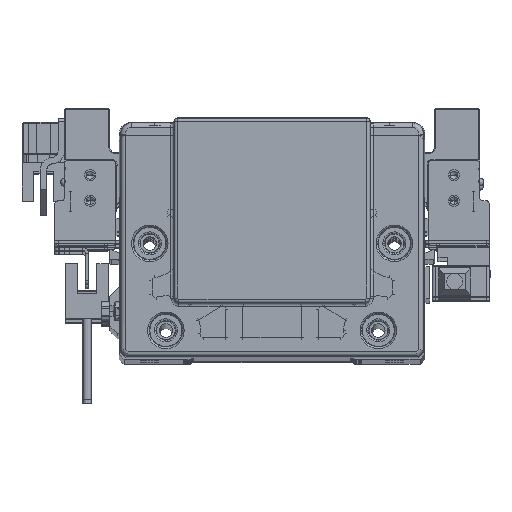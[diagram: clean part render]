
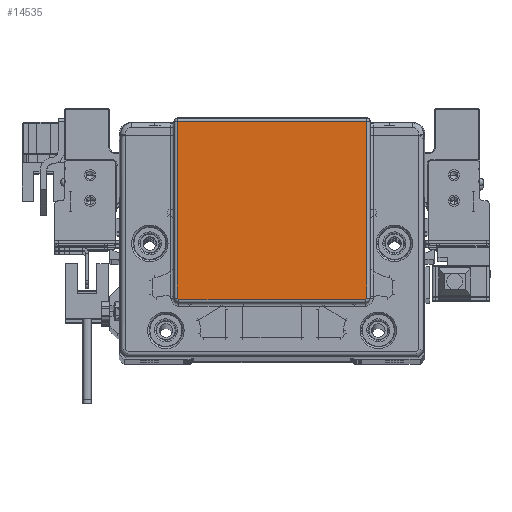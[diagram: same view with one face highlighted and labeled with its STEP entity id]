
A CAD part, top view. The second image highlights one B-rep face of the part: STEP entity #14535.
In plain terms, the highlighted planar face has unit normal (0, 0, 1) as drawn and (0, 0, -1) by its records, which use the part's own axes.
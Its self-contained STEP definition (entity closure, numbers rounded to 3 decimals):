
#407 = LINE ( 'NONE', #18826, #25203 ) ;
#5901 = CARTESIAN_POINT ( 'NONE',  ( -29.299, -19.076, -2. ) ) ;
#6328 = CARTESIAN_POINT ( 'NONE',  ( -29.435, -18.801, -2. ) ) ;
#8854 = CARTESIAN_POINT ( 'NONE',  ( 29.427, -18.849, -2. ) ) ;
#9275 = CARTESIAN_POINT ( 'NONE',  ( 29.386, -18.948, -2. ) ) ;
#9578 = B_SPLINE_CURVE_WITH_KNOTS ( 'NONE', 3,
 ( #64722, #45569, #71577, #13160, #42142, #22509, #66850, #9702, #41727, #42561, #55724, #34888, #60857, #61684, #67698, #73277, #22102, #9275, #68524, #16522, #29742, #28078, #8854, #21679, #47668 ),
 .UNSPECIFIED., .F., .F.,
 ( 4, 2, 1, 1, 1, 1, 2, 2, 2, 2, 2, 1, 2, 2, 4 ),
 ( 0., 0.25, 0.375, 0.438, 0.469, 0.484, 0.492, 0.5, 0.625, 0.688, 0.719, 0.734, 0.742, 0.75, 1. ),
 .UNSPECIFIED. ) ;
#9702 = CARTESIAN_POINT ( 'NONE',  ( 29.279, -19.096, -2. ) ) ;
#10146 = ORIENTED_EDGE ( 'NONE', *, *, #38197, .T. ) ;
#10600 = DIRECTION ( 'NONE',  ( 0., 0., -1. ) ) ;
#11349 = ORIENTED_EDGE ( 'NONE', *, *, #43101, .T. ) ;
#12322 = CARTESIAN_POINT ( 'NONE',  ( -29.294, -19.08, -2. ) ) ;
#12734 = CARTESIAN_POINT ( 'NONE',  ( -28.935, -19.232, -2. ) ) ;
#13160 = CARTESIAN_POINT ( 'NONE',  ( 29.158, -19.18, -2. ) ) ;
#14535 = ADVANCED_FACE ( 'NONE', ( #17853 ), #55370, .T. ) ;
#15418 = DIRECTION ( 'NONE',  ( 1., 0., 0. ) ) ;
#16338 = CARTESIAN_POINT ( 'NONE',  ( -29.435, -18.732, -2. ) ) ;
#16522 = CARTESIAN_POINT ( 'NONE',  ( 29.395, -18.93, -2. ) ) ;
#16621 = VECTOR ( 'NONE', #15418, 1000. ) ;
#17853 = FACE_OUTER_BOUND ( 'NONE', #39796, .T. ) ;
#18389 = DIRECTION ( 'NONE',  ( -1., 0., 0. ) ) ;
#18599 = CARTESIAN_POINT ( 'NONE',  ( -28.935, -19.232, -2. ) ) ;
#18826 = CARTESIAN_POINT ( 'NONE',  ( 0., -19.232, -2. ) ) ;
#21679 = CARTESIAN_POINT ( 'NONE',  ( 29.435, -18.785, -2. ) ) ;
#21827 = CARTESIAN_POINT ( 'NONE',  ( 0., 36.185, -2. ) ) ;
#22102 = CARTESIAN_POINT ( 'NONE',  ( 29.378, -18.966, -2. ) ) ;
#22509 = CARTESIAN_POINT ( 'NONE',  ( 29.247, -19.124, -2. ) ) ;
#24723 = CARTESIAN_POINT ( 'NONE',  ( -29.282, -19.093, -2. ) ) ;
#25203 = VECTOR ( 'NONE', #18389, 1000. ) ;
#25557 = CARTESIAN_POINT ( 'NONE',  ( -28.988, -19.232, -2. ) ) ;
#26389 = CARTESIAN_POINT ( 'NONE',  ( -29.435, 0., -2. ) ) ;
#26397 = CARTESIAN_POINT ( 'NONE',  ( -29.308, -19.065, -2. ) ) ;
#27370 = VERTEX_POINT ( 'NONE', #61772 ) ;
#28078 = CARTESIAN_POINT ( 'NONE',  ( 29.399, -18.919, -2. ) ) ;
#29742 = CARTESIAN_POINT ( 'NONE',  ( 29.397, -18.923, -2. ) ) ;
#30112 = EDGE_CURVE ( 'NONE', #64690, #80318, #44581, .T. ) ;
#31926 = CARTESIAN_POINT ( 'NONE',  ( -29.051, -19.224, -2. ) ) ;
#32362 = CARTESIAN_POINT ( 'NONE',  ( -29.18, -19.169, -2. ) ) ;
#33568 = EDGE_CURVE ( 'NONE', #27370, #60436, #9578, .T. ) ;
#34461 = VERTEX_POINT ( 'NONE', #67819 ) ;
#34888 = CARTESIAN_POINT ( 'NONE',  ( 29.296, -19.079, -2. ) ) ;
#38197 = EDGE_CURVE ( 'NONE', #64690, #70458, #71576, .T. ) ;
#38249 = VECTOR ( 'NONE', #41482, 1000. ) ;
#38359 = CARTESIAN_POINT ( 'NONE',  ( -29.151, -19.183, -2. ) ) ;
#39197 = CARTESIAN_POINT ( 'NONE',  ( -29.289, -19.086, -2. ) ) ;
#39616 = CARTESIAN_POINT ( 'NONE',  ( -29.126, -19.195, -2. ) ) ;
#39796 = EDGE_LOOP ( 'NONE', ( #10146, #11349, #55020, #64610, #71741, #41534 ) ) ;
#41482 = DIRECTION ( 'NONE',  ( 0., -1., 0. ) ) ;
#41534 = ORIENTED_EDGE ( 'NONE', *, *, #30112, .F. ) ;
#41727 = CARTESIAN_POINT ( 'NONE',  ( 29.283, -19.092, -2. ) ) ;
#41947 = EDGE_CURVE ( 'NONE', #34461, #60436, #73032, .T. ) ;
#42142 = CARTESIAN_POINT ( 'NONE',  ( 29.201, -19.157, -2. ) ) ;
#42561 = CARTESIAN_POINT ( 'NONE',  ( 29.286, -19.089, -2. ) ) ;
#43101 = EDGE_CURVE ( 'NONE', #70458, #34461, #80230, .T. ) ;
#43291 = VECTOR ( 'NONE', #65564, 1000. ) ;
#44581 = B_SPLINE_CURVE_WITH_KNOTS ( 'NONE', 3,
 ( #44760, #6328, #58746, #70743, #71584, #63905, #26397, #5901, #12322, #64729, #39197, #24723, #57917, #52377, #76731, #32362, #83965, #38359, #64315, #78398, #39616, #65571, #31926, #25557, #12734 ),
 .UNSPECIFIED., .F., .F.,
 ( 4, 2, 1, 1, 1, 1, 2, 2, 2, 2, 2, 1, 2, 2, 4 ),
 ( 0., 0.25, 0.375, 0.437, 0.469, 0.484, 0.492, 0.5, 0.625, 0.687, 0.719, 0.734, 0.742, 0.75, 1. ),
 .UNSPECIFIED. ) ;
#44760 = CARTESIAN_POINT ( 'NONE',  ( -29.435, -18.732, -2. ) ) ;
#45569 = CARTESIAN_POINT ( 'NONE',  ( 29.003, -19.232, -2. ) ) ;
#47668 = CARTESIAN_POINT ( 'NONE',  ( 29.435, -18.732, -2. ) ) ;
#48017 = EDGE_CURVE ( 'NONE', #27370, #80318, #407, .T. ) ;
#50057 = CARTESIAN_POINT ( 'NONE',  ( -29.435, 36.185, -2. ) ) ;
#51590 = CARTESIAN_POINT ( 'NONE',  ( 29.435, -18.732, -2. ) ) ;
#52377 = CARTESIAN_POINT ( 'NONE',  ( -29.226, -19.14, -2. ) ) ;
#53259 = AXIS2_PLACEMENT_3D ( 'NONE', #62178, #10600, #55790 ) ;
#55020 = ORIENTED_EDGE ( 'NONE', *, *, #41947, .T. ) ;
#55370 = PLANE ( 'NONE',  #53259 ) ;
#55724 = CARTESIAN_POINT ( 'NONE',  ( 29.288, -19.086, -2. ) ) ;
#55790 = DIRECTION ( 'NONE',  ( -1., 0., 0. ) ) ;
#57917 = CARTESIAN_POINT ( 'NONE',  ( -29.266, -19.109, -2. ) ) ;
#58746 = CARTESIAN_POINT ( 'NONE',  ( -29.421, -18.866, -2. ) ) ;
#60436 = VERTEX_POINT ( 'NONE', #51590 ) ;
#60857 = CARTESIAN_POINT ( 'NONE',  ( 29.312, -19.063, -2. ) ) ;
#61684 = CARTESIAN_POINT ( 'NONE',  ( 29.343, -19.023, -2. ) ) ;
#61772 = CARTESIAN_POINT ( 'NONE',  ( 28.935, -19.232, -2. ) ) ;
#62178 = CARTESIAN_POINT ( 'NONE',  ( 0., 0., -2. ) ) ;
#63905 = CARTESIAN_POINT ( 'NONE',  ( -29.326, -19.044, -2. ) ) ;
#64315 = CARTESIAN_POINT ( 'NONE',  ( -29.142, -19.188, -2. ) ) ;
#64610 = ORIENTED_EDGE ( 'NONE', *, *, #33568, .F. ) ;
#64690 = VERTEX_POINT ( 'NONE', #16338 ) ;
#64722 = CARTESIAN_POINT ( 'NONE',  ( 28.935, -19.232, -2. ) ) ;
#64729 = CARTESIAN_POINT ( 'NONE',  ( -29.292, -19.083, -2. ) ) ;
#65564 = DIRECTION ( 'NONE',  ( 0., 1., 0. ) ) ;
#65571 = CARTESIAN_POINT ( 'NONE',  ( -29.121, -19.196, -2. ) ) ;
#66850 = CARTESIAN_POINT ( 'NONE',  ( 29.268, -19.105, -2. ) ) ;
#67698 = CARTESIAN_POINT ( 'NONE',  ( 29.354, -19.006, -2. ) ) ;
#67819 = CARTESIAN_POINT ( 'NONE',  ( 29.435, 36.185, -2. ) ) ;
#68524 = CARTESIAN_POINT ( 'NONE',  ( 29.391, -18.939, -2. ) ) ;
#70458 = VERTEX_POINT ( 'NONE', #50057 ) ;
#70743 = CARTESIAN_POINT ( 'NONE',  ( -29.383, -18.956, -2. ) ) ;
#71576 = LINE ( 'NONE', #26389, #43291 ) ;
#71577 = CARTESIAN_POINT ( 'NONE',  ( 29.069, -19.218, -2. ) ) ;
#71584 = CARTESIAN_POINT ( 'NONE',  ( -29.36, -18.998, -2. ) ) ;
#71741 = ORIENTED_EDGE ( 'NONE', *, *, #48017, .T. ) ;
#73032 = LINE ( 'NONE', #74300, #38249 ) ;
#73277 = CARTESIAN_POINT ( 'NONE',  ( 29.372, -18.977, -2. ) ) ;
#74300 = CARTESIAN_POINT ( 'NONE',  ( 29.435, 0., -2. ) ) ;
#76731 = CARTESIAN_POINT ( 'NONE',  ( -29.209, -19.151, -2. ) ) ;
#78398 = CARTESIAN_POINT ( 'NONE',  ( -29.133, -19.192, -2. ) ) ;
#80230 = LINE ( 'NONE', #21827, #16621 ) ;
#80318 = VERTEX_POINT ( 'NONE', #18599 ) ;
#83965 = CARTESIAN_POINT ( 'NONE',  ( -29.169, -19.175, -2. ) ) ;
